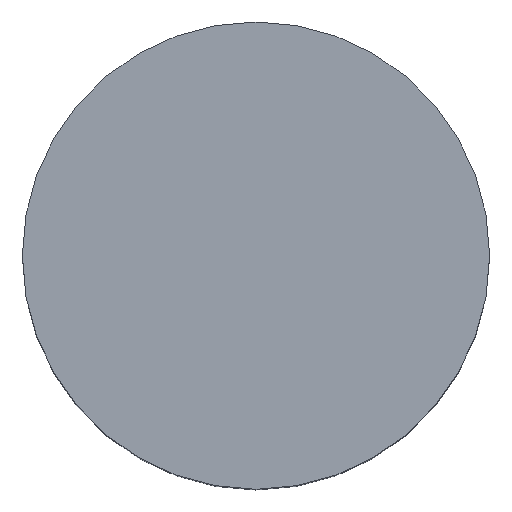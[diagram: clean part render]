
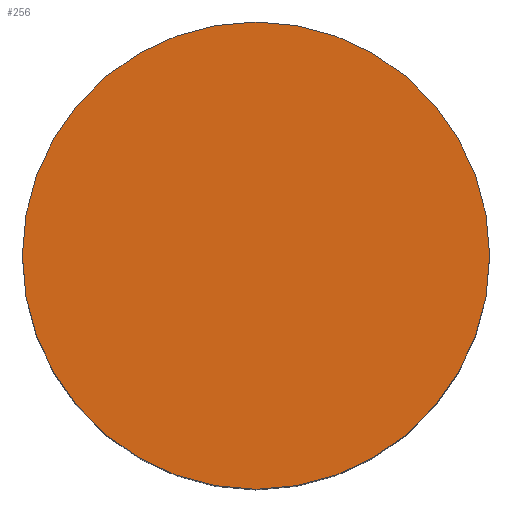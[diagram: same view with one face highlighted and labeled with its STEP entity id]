
A CAD part, top view. The second image highlights one B-rep face of the part: STEP entity #256.
In plain terms, the highlighted planar face has unit normal (0, 0, 1).
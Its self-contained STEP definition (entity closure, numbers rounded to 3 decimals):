
#39 = VERTEX_POINT('',#40);
#40 = CARTESIAN_POINT('',(1.19,0.,2.134));
#47 = CYLINDRICAL_SURFACE('',#48,1.19);
#48 = AXIS2_PLACEMENT_3D('',#49,#50,#51);
#49 = CARTESIAN_POINT('',(0.,0.,0.));
#50 = DIRECTION('',(-0.,-0.,-1.));
#51 = DIRECTION('',(1.,0.,0.));
#59 = CYLINDRICAL_SURFACE('',#60,1.19);
#60 = AXIS2_PLACEMENT_3D('',#61,#62,#63);
#61 = CARTESIAN_POINT('',(0.,0.,0.));
#62 = DIRECTION('',(-0.,-0.,-1.));
#63 = DIRECTION('',(1.,0.,0.));
#71 = EDGE_CURVE('',#39,#72,#74,.T.);
#72 = VERTEX_POINT('',#73);
#73 = CARTESIAN_POINT('',(-1.19,0.,2.134));
#74 = SURFACE_CURVE('',#75,(#80,#87),.PCURVE_S1.);
#75 = CIRCLE('',#76,1.19);
#76 = AXIS2_PLACEMENT_3D('',#77,#78,#79);
#77 = CARTESIAN_POINT('',(0.,0.,2.134));
#78 = DIRECTION('',(0.,0.,1.));
#79 = DIRECTION('',(1.,0.,0.));
#80 = PCURVE('',#47,#81);
#81 = DEFINITIONAL_REPRESENTATION('',(#82),#86);
#82 = LINE('',#83,#84);
#83 = CARTESIAN_POINT('',(-0.,-2.134));
#84 = VECTOR('',#85,1.);
#85 = DIRECTION('',(-1.,0.));
#86 = ( GEOMETRIC_REPRESENTATION_CONTEXT(2) 
PARAMETRIC_REPRESENTATION_CONTEXT() REPRESENTATION_CONTEXT('2D SPACE',''
  ) );
#87 = PCURVE('',#88,#93);
#88 = PLANE('',#89);
#89 = AXIS2_PLACEMENT_3D('',#90,#91,#92);
#90 = CARTESIAN_POINT('',(0.,0.,2.134)
  );
#91 = DIRECTION('',(0.,0.,1.));
#92 = DIRECTION('',(0.,1.,0.));
#93 = DEFINITIONAL_REPRESENTATION('',(#94),#98);
#94 = CIRCLE('',#95,1.19);
#95 = AXIS2_PLACEMENT_2D('',#96,#97);
#96 = CARTESIAN_POINT('',(0.,0.));
#97 = DIRECTION('',(0.,-1.));
#98 = ( GEOMETRIC_REPRESENTATION_CONTEXT(2) 
PARAMETRIC_REPRESENTATION_CONTEXT() REPRESENTATION_CONTEXT('2D SPACE',''
  ) );
#116 = PLANE('',#117);
#117 = AXIS2_PLACEMENT_3D('',#118,#119,#120);
#118 = CARTESIAN_POINT('',(-1.19,0.,0.));
#119 = DIRECTION('',(1.,0.,-0.));
#120 = DIRECTION('',(0.,-1.,0.));
#159 = EDGE_CURVE('',#72,#72,#160,.T.);
#160 = SURFACE_CURVE('',#161,(#165,#172),.PCURVE_S1.);
#161 = LINE('',#162,#163);
#162 = CARTESIAN_POINT('',(-1.19,0.,2.134));
#163 = VECTOR('',#164,1.);
#164 = DIRECTION('',(0.,-1.,0.));
#165 = PCURVE('',#116,#166);
#166 = DEFINITIONAL_REPRESENTATION('',(#167),#171);
#167 = LINE('',#168,#169);
#168 = CARTESIAN_POINT('',(0.,-2.134));
#169 = VECTOR('',#170,1.);
#170 = DIRECTION('',(1.,0.));
#171 = ( GEOMETRIC_REPRESENTATION_CONTEXT(2) 
PARAMETRIC_REPRESENTATION_CONTEXT() REPRESENTATION_CONTEXT('2D SPACE',''
  ) );
#172 = PCURVE('',#88,#173);
#173 = DEFINITIONAL_REPRESENTATION('',(#174),#178);
#174 = LINE('',#175,#176);
#175 = CARTESIAN_POINT('',(0.,1.19));
#176 = VECTOR('',#177,1.);
#177 = DIRECTION('',(-1.,0.));
#178 = ( GEOMETRIC_REPRESENTATION_CONTEXT(2) 
PARAMETRIC_REPRESENTATION_CONTEXT() REPRESENTATION_CONTEXT('2D SPACE',''
  ) );
#206 = EDGE_CURVE('',#72,#39,#207,.T.);
#207 = SURFACE_CURVE('',#208,(#213,#220),.PCURVE_S1.);
#208 = CIRCLE('',#209,1.19);
#209 = AXIS2_PLACEMENT_3D('',#210,#211,#212);
#210 = CARTESIAN_POINT('',(0.,0.,2.134));
#211 = DIRECTION('',(0.,0.,1.));
#212 = DIRECTION('',(1.,0.,0.));
#213 = PCURVE('',#59,#214);
#214 = DEFINITIONAL_REPRESENTATION('',(#215),#219);
#215 = LINE('',#216,#217);
#216 = CARTESIAN_POINT('',(-0.,-2.134));
#217 = VECTOR('',#218,1.);
#218 = DIRECTION('',(-1.,0.));
#219 = ( GEOMETRIC_REPRESENTATION_CONTEXT(2) 
PARAMETRIC_REPRESENTATION_CONTEXT() REPRESENTATION_CONTEXT('2D SPACE',''
  ) );
#220 = PCURVE('',#88,#221);
#221 = DEFINITIONAL_REPRESENTATION('',(#222),#226);
#222 = CIRCLE('',#223,1.19);
#223 = AXIS2_PLACEMENT_2D('',#224,#225);
#224 = CARTESIAN_POINT('',(0.,0.));
#225 = DIRECTION('',(0.,-1.));
#226 = ( GEOMETRIC_REPRESENTATION_CONTEXT(2) 
PARAMETRIC_REPRESENTATION_CONTEXT() REPRESENTATION_CONTEXT('2D SPACE',''
  ) );
#256 = ADVANCED_FACE('',(#257),#88,.T.);
#257 = FACE_BOUND('',#258,.T.);
#258 = EDGE_LOOP('',(#259,#260,#261));
#259 = ORIENTED_EDGE('',*,*,#71,.T.);
#260 = ORIENTED_EDGE('',*,*,#159,.T.);
#261 = ORIENTED_EDGE('',*,*,#206,.T.);
